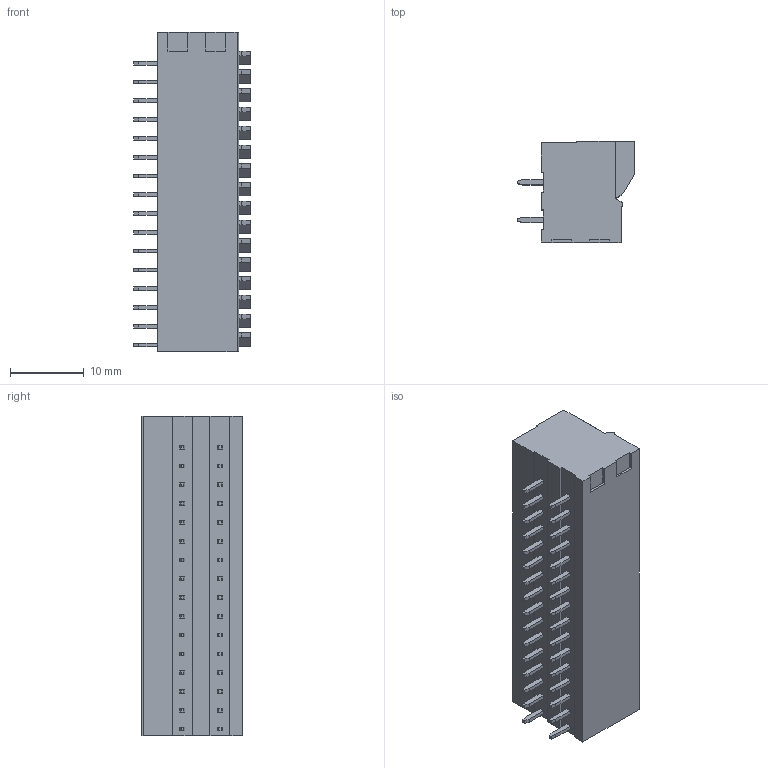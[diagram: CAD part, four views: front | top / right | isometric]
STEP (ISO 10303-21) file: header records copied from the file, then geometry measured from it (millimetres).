
FILE_DESCRIPTION((''),'2;1');
FILE_NAME('16','2020-06-04T',('P'),(''),'PRO/ENGINEER BY PARAMETRIC TECHNOLOGY CORPORATION, 2010280','PRO/ENGINEER BY PARAMETRIC TECHNOLOGY CORPORATION, 2010280','');
FILE_SCHEMA(('CONFIG_CONTROL_DESIGN'));
Length unit declared in the file: millimetre
Products named in the file (1): 16
Bounding box: 15.8 x 13.6 x 43.18 mm (x, y, z)
Volume: 5977.7 mm3; surface area: 4018.7 mm2
Topology: 1 solids, 1 shells, 827 faces, 2267 edges, 1506 vertices
Faces by surface type: plane 682, cylinder 81, cone 32, bspline 32
Entity records: 26857 total; most frequent: CARTESIAN_POINT 5752, ORIENTED_EDGE 4534, DIRECTION 4051, EDGE_CURVE 2267, VECTOR 1945, LINE 1945, VERTEX_POINT 1506, AXIS2_PLACEMENT_3D 1053
